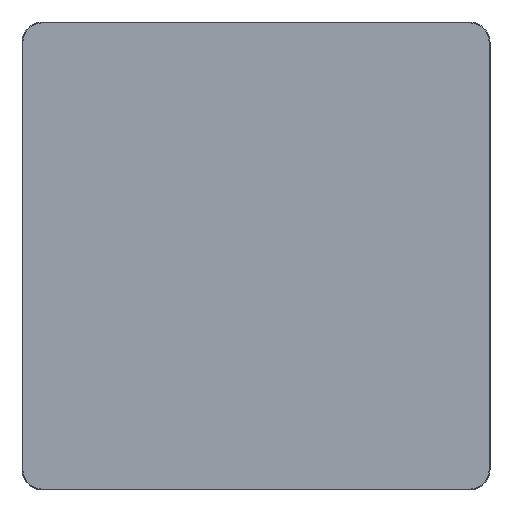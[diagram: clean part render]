
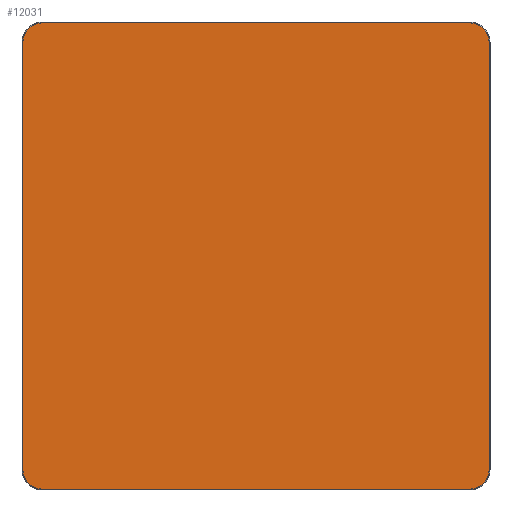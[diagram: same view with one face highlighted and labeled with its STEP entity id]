
A CAD part, top view. The second image highlights one B-rep face of the part: STEP entity #12031.
In plain terms, the highlighted planar face has unit normal (0, 0, 1).
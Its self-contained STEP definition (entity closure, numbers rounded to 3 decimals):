
#11956=CARTESIAN_POINT('',(0.,0.,20.));
#11957=DIRECTION('',(1.,0.,0.));
#11958=DIRECTION('',(0.,0.,1.));
#11959=AXIS2_PLACEMENT_3D('',#11956,#11958,#11957);
#11960=PLANE('',#11959);
#11961=CARTESIAN_POINT('',(-365.,-398.5,20.));
#11962=VERTEX_POINT('',#11961);
#11963=CARTESIAN_POINT('',(365.,-398.5,20.));
#11964=VERTEX_POINT('',#11963);
#11965=CARTESIAN_POINT('',(-365.,-398.5,20.));
#11966=DIRECTION('',(1.,0.,0.));
#11967=VECTOR('',#11966,730.);
#11968=LINE('',#11965,#11967);
#11969=EDGE_CURVE('',#11962,#11964,#11968,.T.);
#11970=ORIENTED_EDGE('E105',*,*,#11969,.T.);
#11971=CARTESIAN_POINT('',(398.5,-365.,20.));
#11972=VERTEX_POINT('',#11971);
#11973=CARTESIAN_POINT('',(365.,-365.,20.));
#11974=DIRECTION('',(0.,-1.,0.));
#11975=DIRECTION('',(0.,0.,1.));
#11976=AXIS2_PLACEMENT_3D('',#11973,#11975,#11974);
#11977=CIRCLE('',#11976,33.5);
#11978=EDGE_CURVE('',#11964,#11972,#11977,.T.);
#11979=ORIENTED_EDGE('E107',*,*,#11978,.T.);
#11980=CARTESIAN_POINT('',(398.5,365.,20.));
#11981=VERTEX_POINT('',#11980);
#11982=CARTESIAN_POINT('',(398.5,-365.,20.));
#11983=DIRECTION('',(0.,1.,0.));
#11984=VECTOR('',#11983,730.);
#11985=LINE('',#11982,#11984);
#11986=EDGE_CURVE('',#11972,#11981,#11985,.T.);
#11987=ORIENTED_EDGE('E109',*,*,#11986,.T.);
#11988=CARTESIAN_POINT('',(365.,398.5,20.));
#11989=VERTEX_POINT('',#11988);
#11990=CARTESIAN_POINT('',(365.,365.,20.));
#11991=DIRECTION('',(1.,0.,0.));
#11992=DIRECTION('',(0.,0.,1.));
#11993=AXIS2_PLACEMENT_3D('',#11990,#11992,#11991);
#11994=CIRCLE('',#11993,33.5);
#11995=EDGE_CURVE('',#11981,#11989,#11994,.T.);
#11996=ORIENTED_EDGE('E111',*,*,#11995,.T.);
#11997=CARTESIAN_POINT('',(-365.,398.5,20.));
#11998=VERTEX_POINT('',#11997);
#11999=CARTESIAN_POINT('',(365.,398.5,20.));
#12000=DIRECTION('',(-1.,0.,0.));
#12001=VECTOR('',#12000,730.);
#12002=LINE('',#11999,#12001);
#12003=EDGE_CURVE('',#11989,#11998,#12002,.T.);
#12004=ORIENTED_EDGE('E113',*,*,#12003,.T.);
#12005=CARTESIAN_POINT('',(-398.5,365.,20.));
#12006=VERTEX_POINT('',#12005);
#12007=CARTESIAN_POINT('',(-365.,365.,20.));
#12008=DIRECTION('',(0.,1.,0.));
#12009=DIRECTION('',(0.,0.,1.));
#12010=AXIS2_PLACEMENT_3D('',#12007,#12009,#12008);
#12011=CIRCLE('',#12010,33.5);
#12012=EDGE_CURVE('',#11998,#12006,#12011,.T.);
#12013=ORIENTED_EDGE('E115',*,*,#12012,.T.);
#12014=CARTESIAN_POINT('',(-398.5,-365.,20.));
#12015=VERTEX_POINT('',#12014);
#12016=CARTESIAN_POINT('',(-398.5,365.,20.));
#12017=DIRECTION('',(0.,-1.,0.));
#12018=VECTOR('',#12017,730.);
#12019=LINE('',#12016,#12018);
#12020=EDGE_CURVE('',#12006,#12015,#12019,.T.);
#12021=ORIENTED_EDGE('E117',*,*,#12020,.T.);
#12022=CARTESIAN_POINT('',(-365.,-365.,20.));
#12023=DIRECTION('',(-1.,0.,0.));
#12024=DIRECTION('',(0.,0.,1.));
#12025=AXIS2_PLACEMENT_3D('',#12022,#12024,#12023);
#12026=CIRCLE('',#12025,33.5);
#12027=EDGE_CURVE('',#12015,#11962,#12026,.T.);
#12028=ORIENTED_EDGE('E119',*,*,#12027,.T.);
#12029=EDGE_LOOP('',(#11970,#11979,#11987,#11996,#12004,#12013,#12021,#12028));
#12030=FACE_OUTER_BOUND('',#12029,.T.);
#12031=ADVANCED_FACE('F2',(#12030),#11960,.T.);
